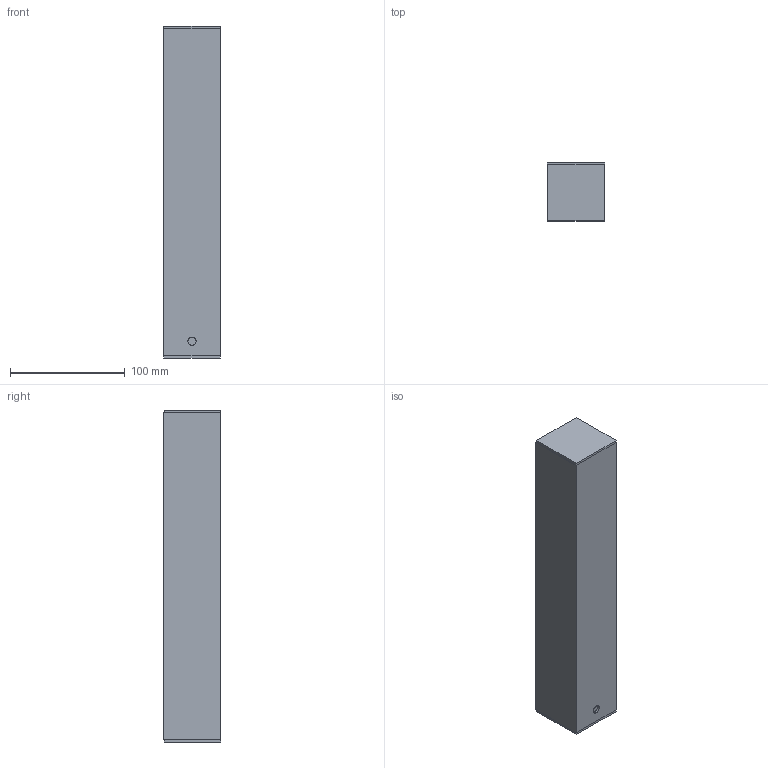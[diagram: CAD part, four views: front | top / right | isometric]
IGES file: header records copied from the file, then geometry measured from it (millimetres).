
Start section: SolidWorks IGES file using analytic representation for surfaces
Global section: file name: C:\Users\tungari.NEMOLIGHTING\Desktop\3D\PENDANT\ACCESSORIES\linescapes_rosone\LIN_ROSONE\DEF\3D_POWER_SUPPLY_60W.IGS; native system: SolidWorks 2016; preprocessor: SolidWorks 2016; author: tungari; date: 180409.143618; units: millimetre
Bounding box: 50 x 50 x 289 mm (x, y, z)
Surface area: 62828 mm2 (no closed solid volume)
Topology: 0 solids, 0 shells, 19 faces, 148 edges, 148 vertices
Faces by surface type: bspline 17, revolution 2
